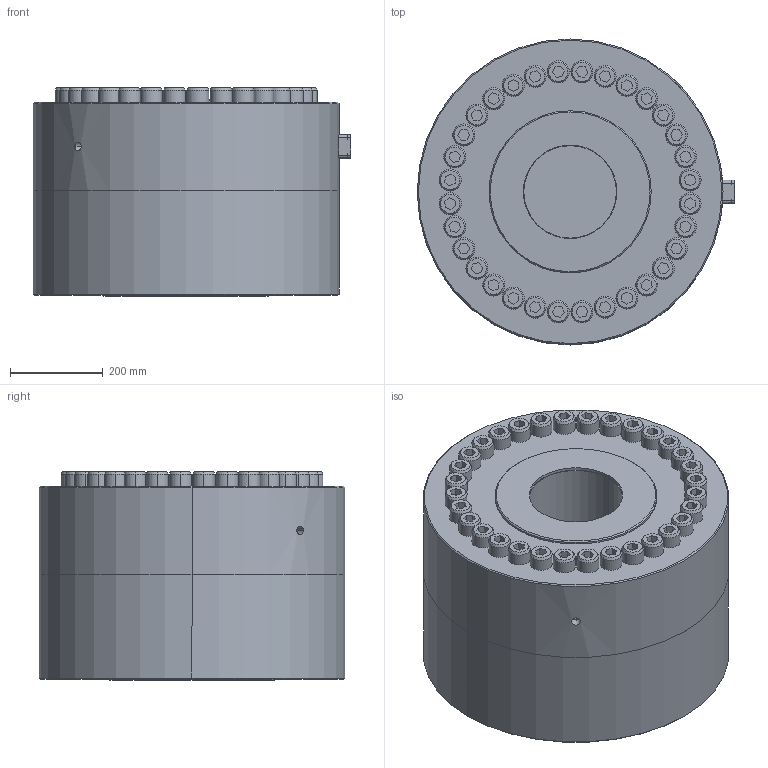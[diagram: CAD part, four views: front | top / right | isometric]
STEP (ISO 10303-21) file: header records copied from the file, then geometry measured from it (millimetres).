
FILE_DESCRIPTION (( 'STEP AP203' ), '1' );
FILE_NAME ('Interface 1290-9.0MN-B.STEP', '2011-06-07T17:20:09', ( ' ' ), ( '' ), 'SwSTEP 2.0', 'SolidWorks 2002349', '' );
FILE_SCHEMA (( 'CONFIG_CONTROL_DESIGN' ));
Length unit declared in the file: inch
Products named in the file (1): Interface 1290-9.0MN-B
Bounding box: 685.8 x 660.4 x 450.85 mm (x, y, z)
Volume: 133739828.5 mm3; surface area: 1970813.8 mm2
Topology: 1 solids, 1 shells, 660 faces, 1533 edges, 979 vertices
Faces by surface type: plane 374, cylinder 165, cone 88, bspline 33
Entity records: 19828 total; most frequent: CARTESIAN_POINT 4828, ORIENTED_EDGE 3054, DIRECTION 3046, EDGE_CURVE 1527, AXIS2_PLACEMENT_3D 1023, LINE 1000, VECTOR 1000, VERTEX_POINT 979
